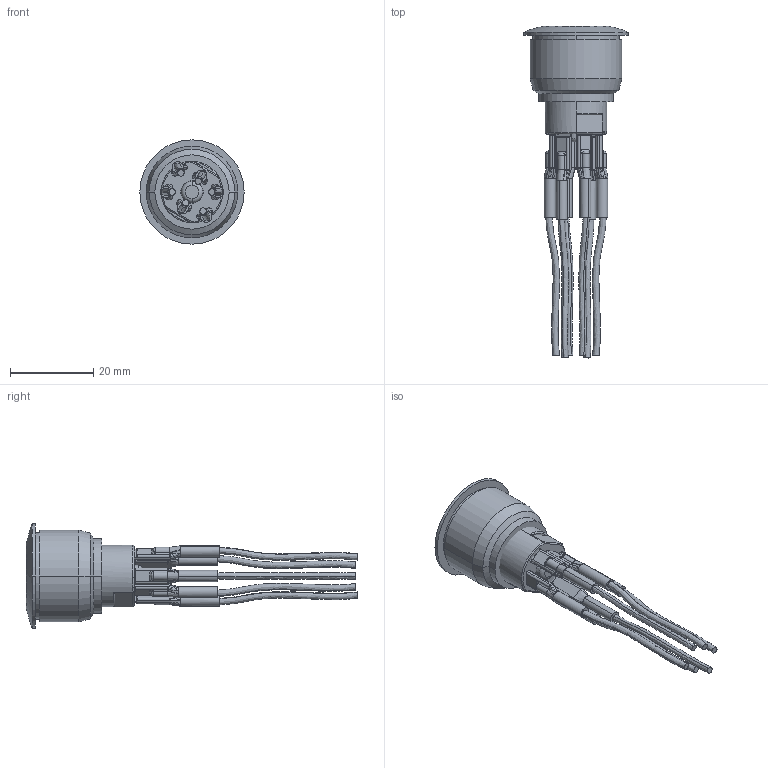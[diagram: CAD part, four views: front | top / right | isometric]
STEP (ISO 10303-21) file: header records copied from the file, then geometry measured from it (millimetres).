
FILE_DESCRIPTION((''),'2;1');
FILE_NAME('AV3122F102014BK','2015-06-03T',('mdamaggio'),(''),'CREO PARAMETRIC BY PTC INC, 2014440','CREO PARAMETRIC BY PTC INC, 2014440','');
FILE_SCHEMA(('CONFIG_CONTROL_DESIGN'));
Length unit declared in the file: millimetre
Products named in the file (1): AV3122F102014BK
Bounding box: 25 x 79.61 x 25 mm (x, y, z)
Surface area: 5971.7 mm2 (no closed solid volume)
Topology: 0 solids, 28 shells, 427 faces, 1208 edges, 798 vertices
Faces by surface type: bspline 210, cylinder 92, plane 63, torus 30, sphere 26, cone 6
Entity records: 22744 total; most frequent: CARTESIAN_POINT 13371, ORIENTED_EDGE 2062, DIRECTION 1540, EDGE_CURVE 1208, VERTEX_POINT 798, AXIS2_PLACEMENT_3D 597, B_SPLINE_CURVE_WITH_KNOTS 482, EDGE_LOOP 427
